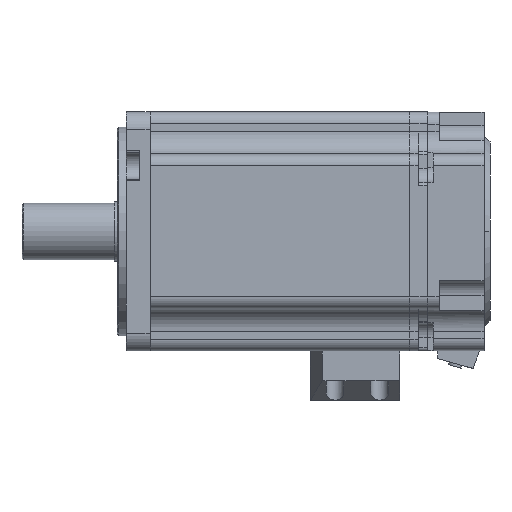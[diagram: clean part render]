
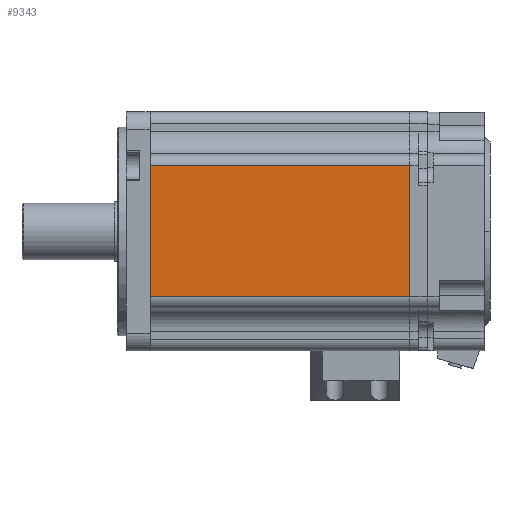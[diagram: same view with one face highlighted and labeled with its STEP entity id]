
A CAD part, front view. The second image highlights one B-rep face of the part: STEP entity #9343.
In plain terms, the highlighted planar face has unit normal (0, -1, 0).
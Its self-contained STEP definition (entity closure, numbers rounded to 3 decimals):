
#763 = EDGE_CURVE ( 'NONE', #21355, #2492, #21955, .T. ) ;
#1046 = PLANE ( 'NONE',  #15102 ) ;
#1775 = ORIENTED_EDGE ( 'NONE', *, *, #24764, .F. ) ;
#2492 = VERTEX_POINT ( 'NONE', #23176 ) ;
#2951 = CARTESIAN_POINT ( 'NONE',  ( -29.044, -44.144, 97.7 ) ) ;
#3295 = CARTESIAN_POINT ( 'NONE',  ( 57.956, -44.144, 97.7 ) ) ;
#3980 = CARTESIAN_POINT ( 'NONE',  ( 57.956, -44.144, 153.2 ) ) ;
#5538 = EDGE_CURVE ( 'NONE', #27004, #21355, #12499, .T. ) ;
#6160 = VECTOR ( 'NONE', #23494, 1000. ) ;
#8202 = VECTOR ( 'NONE', #19774, 1000. ) ;
#8487 = CARTESIAN_POINT ( 'NONE',  ( -29.044, -44.144, 153.2 ) ) ;
#9343 = ADVANCED_FACE ( 'NONE', ( #15334 ), #1046, .F. ) ;
#10547 = EDGE_CURVE ( 'NONE', #27004, #14113, #22667, .T. ) ;
#10699 = VECTOR ( 'NONE', #26556, 1000. ) ;
#10866 = ORIENTED_EDGE ( 'NONE', *, *, #5538, .F. ) ;
#11883 = ORIENTED_EDGE ( 'NONE', *, *, #763, .F. ) ;
#12468 = DIRECTION ( 'NONE',  ( 1., 0., 0. ) ) ;
#12499 = LINE ( 'NONE', #19233, #18881 ) ;
#14113 = VERTEX_POINT ( 'NONE', #2951 ) ;
#14580 = EDGE_LOOP ( 'NONE', ( #1775, #11883, #10866, #15662 ) ) ;
#15102 = AXIS2_PLACEMENT_3D ( 'NONE', #3295, #25976, #21330 ) ;
#15334 = FACE_OUTER_BOUND ( 'NONE', #14580, .T. ) ;
#15662 = ORIENTED_EDGE ( 'NONE', *, *, #10547, .T. ) ;
#15956 = CARTESIAN_POINT ( 'NONE',  ( 57.956, -44.144, 141.7 ) ) ;
#18881 = VECTOR ( 'NONE', #12468, 1000. ) ;
#19233 = CARTESIAN_POINT ( 'NONE',  ( 57.956, -44.144, 141.7 ) ) ;
#19239 = CARTESIAN_POINT ( 'NONE',  ( -29.044, -44.144, 141.7 ) ) ;
#19774 = DIRECTION ( 'NONE',  ( 0., 0., -1. ) ) ;
#21330 = DIRECTION ( 'NONE',  ( 0., 0., 1. ) ) ;
#21355 = VERTEX_POINT ( 'NONE', #15956 ) ;
#21955 = LINE ( 'NONE', #3980, #8202 ) ;
#22667 = LINE ( 'NONE', #8487, #10699 ) ;
#22714 = LINE ( 'NONE', #23389, #6160 ) ;
#23176 = CARTESIAN_POINT ( 'NONE',  ( 57.956, -44.144, 97.7 ) ) ;
#23389 = CARTESIAN_POINT ( 'NONE',  ( 57.956, -44.144, 97.7 ) ) ;
#23494 = DIRECTION ( 'NONE',  ( -1., 0., 0. ) ) ;
#24764 = EDGE_CURVE ( 'NONE', #2492, #14113, #22714, .T. ) ;
#25976 = DIRECTION ( 'NONE',  ( 0., 1., 0. ) ) ;
#26556 = DIRECTION ( 'NONE',  ( 0., 0., -1. ) ) ;
#27004 = VERTEX_POINT ( 'NONE', #19239 ) ;
